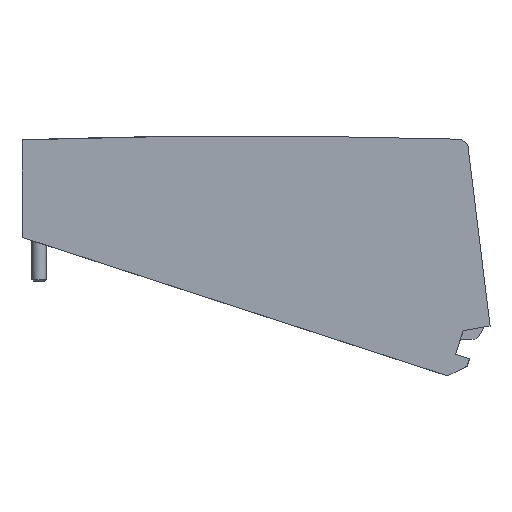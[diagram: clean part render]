
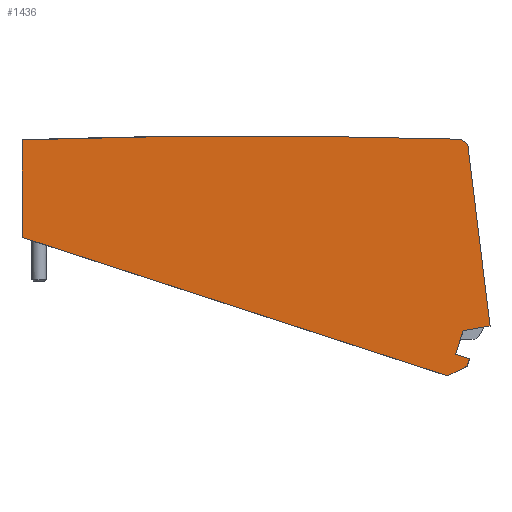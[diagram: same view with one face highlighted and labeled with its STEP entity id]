
A CAD part, top view. The second image highlights one B-rep face of the part: STEP entity #1436.
In plain terms, the highlighted planar face has unit normal (0, 0, 1).
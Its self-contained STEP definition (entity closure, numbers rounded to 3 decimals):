
#242=DIRECTION('',(0.,-1.,0.));
#243=VECTOR('',#242,17.109);
#244=CARTESIAN_POINT('',(-35.5,18.636,6.15));
#245=LINE('',#244,#243);
#251=CARTESIAN_POINT('',(4.42,-1180.7,6.15));
#252=DIRECTION('',(0.,0.,-1.));
#253=DIRECTION('',(-0.033,0.999,0.));
#254=AXIS2_PLACEMENT_3D('',#251,#252,#253);
#256=DIRECTION('',(0.749,-0.663,0.));
#257=VECTOR('',#256,1.498);
#258=CARTESIAN_POINT('',(41.474,18.75,6.15));
#259=LINE('',#258,#257);
#260=DIRECTION('',(0.122,-0.993,0.));
#261=VECTOR('',#260,31.968);
#262=CARTESIAN_POINT('',(42.595,17.757,6.15));
#263=LINE('',#262,#261);
#264=DIRECTION('',(-0.985,-0.174,0.));
#265=VECTOR('',#264,4.777);
#266=CARTESIAN_POINT('',(46.491,-13.972,6.15));
#267=LINE('',#266,#265);
#268=DIRECTION('',(-0.309,-0.951,0.));
#269=VECTOR('',#268,4.354);
#270=CARTESIAN_POINT('',(41.787,-14.801,6.15));
#271=LINE('',#270,#269);
#272=DIRECTION('',(0.951,-0.309,0.));
#273=VECTOR('',#272,2.6);
#274=CARTESIAN_POINT('',(40.441,-18.942,6.15));
#275=LINE('',#274,#273);
#276=DIRECTION('',(-0.309,-0.951,0.));
#277=VECTOR('',#276,1.3);
#278=CARTESIAN_POINT('',(42.914,-19.746,6.15));
#279=LINE('',#278,#277);
#280=DIRECTION('',(-0.891,-0.454,0.));
#281=VECTOR('',#280,3.818);
#282=CARTESIAN_POINT('',(42.512,-20.982,6.15));
#283=LINE('',#282,#281);
#284=DIRECTION('',(-0.951,0.309,0.));
#285=VECTOR('',#284,78.45);
#286=CARTESIAN_POINT('',(39.11,-22.715,6.15));
#287=LINE('',#286,#285);
#288=DIRECTION('',(-1.,0.,0.));
#289=VECTOR('',#288,0.725);
#290=CARTESIAN_POINT('',(41.474,18.75,6.15));
#291=LINE('',#290,#289);
#985=CARTESIAN_POINT('',(-35.5,18.636,6.15));
#986=CARTESIAN_POINT('',(40.748,18.75,6.15));
#987=VERTEX_POINT('',#985);
#988=VERTEX_POINT('',#986);
#989=CARTESIAN_POINT('',(42.914,-19.746,6.15));
#990=CARTESIAN_POINT('',(42.512,-20.982,6.15));
#991=VERTEX_POINT('',#989);
#992=VERTEX_POINT('',#990);
#993=CARTESIAN_POINT('',(39.11,-22.715,6.15));
#994=VERTEX_POINT('',#993);
#995=CARTESIAN_POINT('',(-35.5,1.527,6.15));
#996=VERTEX_POINT('',#995);
#1041=CARTESIAN_POINT('',(41.474,18.75,6.15));
#1042=VERTEX_POINT('',#1041);
#1043=CARTESIAN_POINT('',(42.595,17.757,6.15));
#1044=VERTEX_POINT('',#1043);
#1045=CARTESIAN_POINT('',(46.491,-13.972,6.15));
#1046=VERTEX_POINT('',#1045);
#1047=CARTESIAN_POINT('',(41.787,-14.801,6.15));
#1048=VERTEX_POINT('',#1047);
#1049=CARTESIAN_POINT('',(40.441,-18.942,6.15));
#1050=VERTEX_POINT('',#1049);
#1409=CARTESIAN_POINT('',(-26.783,12.364,6.15));
#1410=DIRECTION('',(0.,0.,-1.));
#1411=DIRECTION('',(-1.,0.,0.));
#1412=AXIS2_PLACEMENT_3D('',#1409,#1410,#1411);
#1413=PLANE('',#1412);
#1414=ORIENTED_EDGE('',*,*,#1231,.T.);
#1416=ORIENTED_EDGE('',*,*,#1415,.F.);
#1418=ORIENTED_EDGE('',*,*,#1417,.T.);
#1420=ORIENTED_EDGE('',*,*,#1419,.T.);
#1422=ORIENTED_EDGE('',*,*,#1421,.T.);
#1424=ORIENTED_EDGE('',*,*,#1423,.T.);
#1426=ORIENTED_EDGE('',*,*,#1425,.T.);
#1428=ORIENTED_EDGE('',*,*,#1427,.T.);
#1430=ORIENTED_EDGE('',*,*,#1429,.T.);
#1432=ORIENTED_EDGE('',*,*,#1431,.T.);
#1433=ORIENTED_EDGE('',*,*,#1385,.F.);
#1434=EDGE_LOOP('',(#1414,#1416,#1418,#1420,#1422,#1424,#1426,#1428,#1430,#1432,
#1433));
#1435=FACE_OUTER_BOUND('',#1434,.F.);
#1436=ADVANCED_FACE('',(#1435),#1413,.F.);
#255=CIRCLE('',#254,1200.);
#1231=EDGE_CURVE('',#987,#988,#255,.T.);
#1385=EDGE_CURVE('',#987,#996,#245,.T.);
#1415=EDGE_CURVE('',#1042,#988,#291,.T.);
#1417=EDGE_CURVE('',#1042,#1044,#259,.T.);
#1419=EDGE_CURVE('',#1044,#1046,#263,.T.);
#1421=EDGE_CURVE('',#1046,#1048,#267,.T.);
#1423=EDGE_CURVE('',#1048,#1050,#271,.T.);
#1425=EDGE_CURVE('',#1050,#991,#275,.T.);
#1427=EDGE_CURVE('',#991,#992,#279,.T.);
#1429=EDGE_CURVE('',#992,#994,#283,.T.);
#1431=EDGE_CURVE('',#994,#996,#287,.T.);
